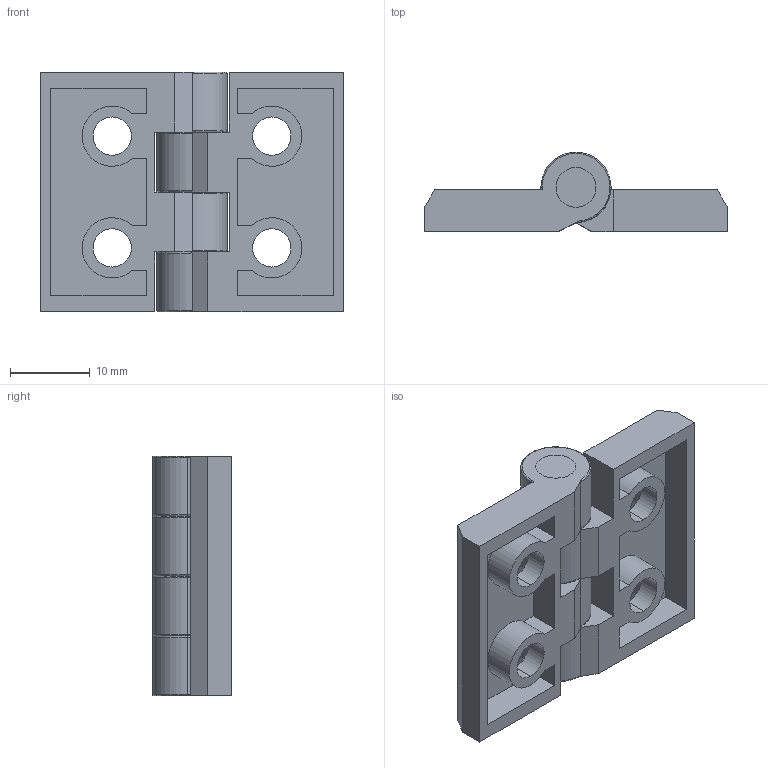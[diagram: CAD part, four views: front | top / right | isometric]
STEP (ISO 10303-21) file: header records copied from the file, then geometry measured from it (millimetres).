
FILE_DESCRIPTION (( 'STEP AP203' ), '1' );
FILE_NAME ('2020郈磁踢磁珜.STEP', '2018-06-06T07:49:00', ( 'China' ), ( 'Home' ), 'SwSTEP 2.0', 'SolidWorks 2013', '' );
FILE_SCHEMA (( 'CONFIG_CONTROL_DESIGN' ));
Length unit declared in the file: millimetre
Products named in the file (1): 2020郈磁踢磁珜
Bounding box: 38 x 9.93 x 30 mm (x, y, z)
Surface area: 5276.7 mm2 (no closed solid volume)
Topology: 0 solids, 3 shells, 112 faces, 296 edges, 192 vertices
Faces by surface type: plane 50, cylinder 30, torus 24, cone 8
Entity records: 3727 total; most frequent: CARTESIAN_POINT 777, DIRECTION 622, ORIENTED_EDGE 584, EDGE_CURVE 296, AXIS2_PLACEMENT_3D 229, VERTEX_POINT 192, VECTOR 164, LINE 164
